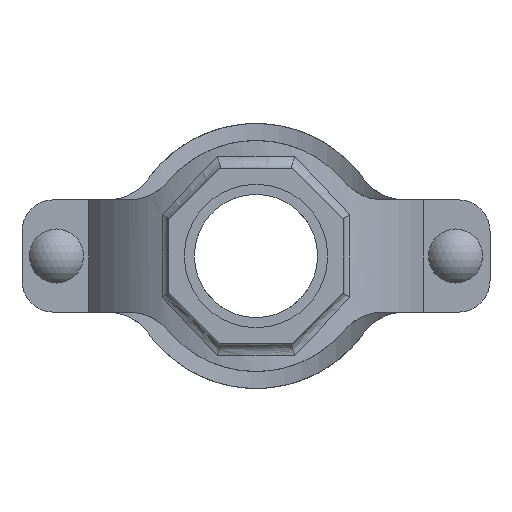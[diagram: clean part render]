
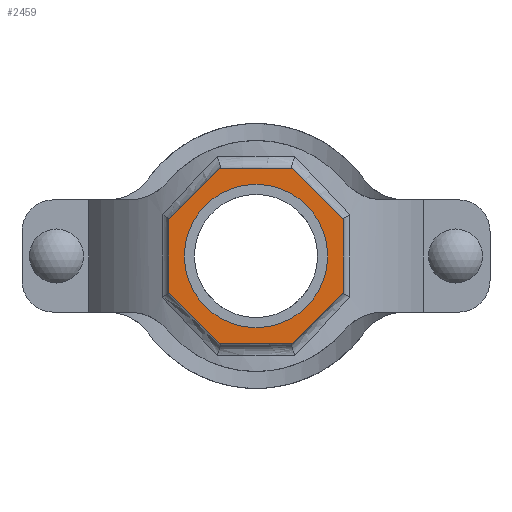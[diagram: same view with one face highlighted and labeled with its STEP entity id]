
A CAD part, front view. The second image highlights one B-rep face of the part: STEP entity #2459.
In plain terms, the highlighted planar face has unit normal (0, -1, 0) as drawn and (0, 1, 0) by its records, which use the part's own axes.
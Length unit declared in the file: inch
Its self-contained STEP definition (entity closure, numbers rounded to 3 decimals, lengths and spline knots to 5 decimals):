
#178=FACE_BOUND('',#443,.T.);
#295=FACE_OUTER_BOUND('',#442,.T.);
#442=EDGE_LOOP('',(#2070,#2071,#2072,#2073,#2074,#2075,#2076,#2077));
#443=EDGE_LOOP('',(#2078));
#576=LINE('',#4565,#758);
#579=LINE('',#4570,#761);
#581=LINE('',#4574,#763);
#583=LINE('',#4578,#765);
#621=LINE('',#4973,#803);
#623=LINE('',#4977,#805);
#625=LINE('',#4981,#807);
#627=LINE('',#4984,#809);
#758=VECTOR('',#3180,0.3937);
#761=VECTOR('',#3185,0.3937);
#763=VECTOR('',#3189,0.3937);
#765=VECTOR('',#3193,0.3937);
#803=VECTOR('',#3319,0.3937);
#805=VECTOR('',#3323,0.3937);
#807=VECTOR('',#3327,0.3937);
#809=VECTOR('',#3331,0.3937);
#891=CIRCLE('',#2714,1.4375);
#1065=VERTEX_POINT('',#4562);
#1066=VERTEX_POINT('',#4564);
#1067=VERTEX_POINT('',#4568);
#1068=VERTEX_POINT('',#4572);
#1069=VERTEX_POINT('',#4576);
#1100=VERTEX_POINT('',#4810);
#1124=VERTEX_POINT('',#4972);
#1125=VERTEX_POINT('',#4976);
#1126=VERTEX_POINT('',#4980);
#1366=EDGE_CURVE('',#1066,#1065,#576,.T.);
#1369=EDGE_CURVE('',#1065,#1067,#579,.T.);
#1371=EDGE_CURVE('',#1067,#1068,#581,.T.);
#1373=EDGE_CURVE('',#1068,#1069,#583,.T.);
#1413=EDGE_CURVE('',#1100,#1100,#891,.T.);
#1447=EDGE_CURVE('',#1124,#1066,#621,.T.);
#1449=EDGE_CURVE('',#1125,#1124,#623,.T.);
#1451=EDGE_CURVE('',#1126,#1125,#625,.T.);
#1453=EDGE_CURVE('',#1069,#1126,#627,.T.);
#2070=ORIENTED_EDGE('',*,*,#1453,.T.);
#2071=ORIENTED_EDGE('',*,*,#1451,.T.);
#2072=ORIENTED_EDGE('',*,*,#1449,.T.);
#2073=ORIENTED_EDGE('',*,*,#1447,.T.);
#2074=ORIENTED_EDGE('',*,*,#1366,.T.);
#2075=ORIENTED_EDGE('',*,*,#1369,.T.);
#2076=ORIENTED_EDGE('',*,*,#1371,.T.);
#2077=ORIENTED_EDGE('',*,*,#1373,.T.);
#2078=ORIENTED_EDGE('',*,*,#1413,.T.);
#2208=PLANE('',#2737);
#2459=ADVANCED_FACE('',(#295,#178),#2208,.T.);
#2714=AXIS2_PLACEMENT_3D('',#4811,#3261,#3262);
#2737=AXIS2_PLACEMENT_3D('',#4985,#3332,#3333);
#3180=DIRECTION('',(0.,0.,1.));
#3185=DIRECTION('',(0.707,0.,0.707));
#3189=DIRECTION('',(1.,0.,0.));
#3193=DIRECTION('',(0.707,0.,-0.707));
#3261=DIRECTION('center_axis',(0.,-1.,0.));
#3262=DIRECTION('ref_axis',(-1.,0.,0.));
#3319=DIRECTION('',(-0.707,0.,0.707));
#3323=DIRECTION('',(-1.,0.,0.));
#3327=DIRECTION('',(-0.707,0.,-0.707));
#3331=DIRECTION('',(0.,0.,-1.));
#3332=DIRECTION('center_axis',(0.,1.,0.));
#3333=DIRECTION('ref_axis',(0.,0.,1.));
#4562=CARTESIAN_POINT('',(-1.75,5.13,0.72487));
#4564=CARTESIAN_POINT('',(-1.75,5.13,-0.72487));
#4565=CARTESIAN_POINT('',(-1.75,5.13,0.72487));
#4568=CARTESIAN_POINT('',(-0.72487,5.13,1.75));
#4570=CARTESIAN_POINT('',(-0.72487,5.13,1.75));
#4572=CARTESIAN_POINT('',(0.72487,5.13,1.75));
#4574=CARTESIAN_POINT('',(0.72487,5.13,1.75));
#4576=CARTESIAN_POINT('',(1.75,5.13,0.72487));
#4578=CARTESIAN_POINT('',(1.75,5.13,0.72487));
#4810=CARTESIAN_POINT('',(1.4375,5.13,0.));
#4811=CARTESIAN_POINT('Origin',(0.,5.13,0.));
#4972=CARTESIAN_POINT('',(-0.72487,5.13,-1.75));
#4973=CARTESIAN_POINT('',(-1.75,5.13,-0.72487));
#4976=CARTESIAN_POINT('',(0.72487,5.13,-1.75));
#4977=CARTESIAN_POINT('',(-0.72487,5.13,-1.75));
#4980=CARTESIAN_POINT('',(1.75,5.13,-0.72487));
#4981=CARTESIAN_POINT('',(0.72487,5.13,-1.75));
#4984=CARTESIAN_POINT('',(1.75,5.13,-0.72487));
#4985=CARTESIAN_POINT('Origin',(0.,5.13,0.));
